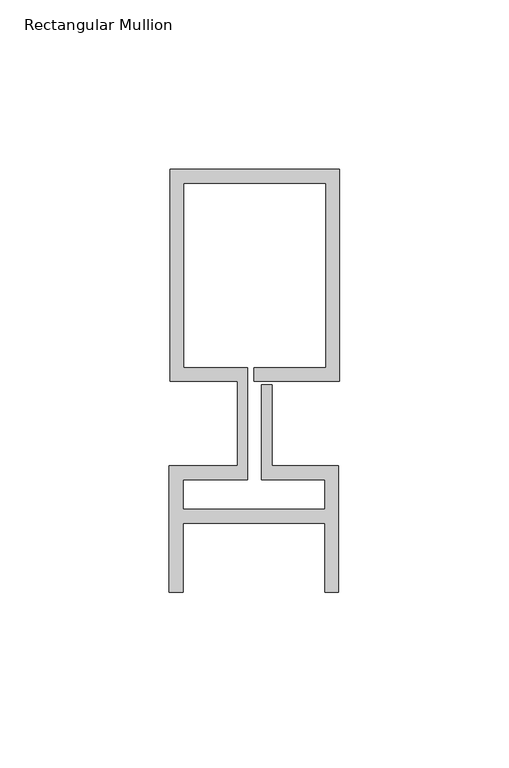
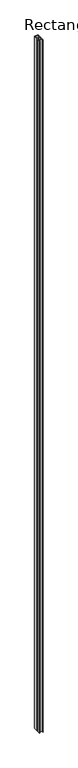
"""IFC4 building model written with IfcOpenShell, lengths in millimetres: member geometry, Rectangular Mullion : Reynaers_CW-50_Mullion-Transom_Vertical_62.5mm_Facecap-03."""

import ifcopenshell
import ifcopenshell.guid

model = None  # the IFC model being written
_history = None  # IfcOwnerHistory: only IFC2X3 demands one
_inside = {}  # id of a spatial element -> (the spatial element, [elements in it])
_under = {}  # id of a project, library or spatial element -> (it, [spatial elements below it])
_declared = {}  # id of a project -> (the project, [libraries it declares])
_typed = {}  # id of a type object -> (the type object, [elements of that type])
_made_of = {}  # id of a material, layer set ... -> (it, [elements and type objects made of it])


def new_model(schema):
    """Start an empty IFC model of exactly this schema.

    Asked for "IFC4X3", IfcOpenShell would pick the latest addendum, in which some entities
    have other attributes; the version numbers below select the first issue.
    IFC2X3 requires an IfcOwnerHistory on every rooted entity: one is made here for all.
    """
    global model, _history
    if schema == "IFC4X3":
        model = ifcopenshell.file(schema_version=(4, 3, 0, 0))
    else:
        model = ifcopenshell.file(schema=schema)
    _inside.clear()
    _under.clear()
    _declared.clear()
    _typed.clear()
    _made_of.clear()
    _history = None
    if model.schema == "IFC2X3":
        org = make("IfcOrganization", Name="unknown")
        user = make(
            "IfcPersonAndOrganization",
            ThePerson=make("IfcPerson", FamilyName="unknown"),
            TheOrganization=org,
        )
        app = make(
            "IfcApplication",
            ApplicationDeveloper=org,
            Version="unknown",
            ApplicationFullName="unknown",
            ApplicationIdentifier="unknown",
        )
        _history = make(
            "IfcOwnerHistory",
            OwningUser=user,
            OwningApplication=app,
            ChangeAction="ADDED",
            CreationDate=0,
        )
    return model


def make(cls, **values):
    """One entity of the class cls with the attributes given. An attribute that is None is left unset."""
    return model.create_entity(
        cls, **{name: value for name, value in values.items() if value is not None}
    )


def rooted(cls, **values):
    """An entity with a GlobalId (a new one), such as an element, a storey or a relation."""
    return make(cls, GlobalId=ifcopenshell.guid.new(), OwnerHistory=_history, **values)


def si_unit(unit_type, name, prefix=None):
    """IfcSIUnit, for example si_unit("LENGTHUNIT", "METRE", prefix="MILLI")."""
    return make("IfcSIUnit", UnitType=unit_type, Prefix=prefix, Name=name)


def assignment(units):
    """IfcUnitAssignment: the units of a project."""
    return None if units is None else make("IfcUnitAssignment", Units=units)


def point(xyz):
    """IfcCartesianPoint."""
    return None if xyz is None else make("IfcCartesianPoint", Coordinates=xyz)


def direction(xyz):
    """IfcDirection."""
    return None if xyz is None else make("IfcDirection", DirectionRatios=xyz)


def frame(location, z_axis=None, x_axis=None):
    """IfcAxis2Placement3D, a coordinate frame: its origin and axes. An axis left out is left unset."""
    return make(
        "IfcAxis2Placement3D",
        Location=point(location),
        Axis=direction(z_axis),
        RefDirection=direction(x_axis),
    )


def origin():
    """The frame at (0, 0, 0) with its axes left unset."""
    return frame((0.0, 0.0, 0.0))


def place(relative_to, where):
    """IfcLocalPlacement: puts the frame where relative to a parent placement (None: the world)."""
    return make(
        "IfcLocalPlacement", PlacementRelTo=relative_to, RelativePlacement=where
    )


def context(
    kind, dimensions, precision=None, world=None, true_north=None, identifier=None
):
    """IfcGeometricRepresentationContext, for example the 3D "Model" context."""
    return make(
        "IfcGeometricRepresentationContext",
        ContextIdentifier=identifier,
        ContextType=kind,
        CoordinateSpaceDimension=dimensions,
        Precision=precision,
        WorldCoordinateSystem=world,
        TrueNorth=true_north,
    )


def project(units=None, contexts=None):
    """IfcProject with its units and contexts."""
    return rooted(
        "IfcProject",
        Name="project",
        RepresentationContexts=contexts,
        UnitsInContext=assignment(units),
    )


def spatial(cls, under=None, at=None, **own):
    """A site, building, storey or space (cls), placed at a placement, below another one or the project."""
    s = rooted(cls, ObjectPlacement=at, **own)
    if under is not None:
        _under.setdefault(under.id(), (under, []))[1].append(s)
    return s


def polyline(points):
    """IfcPolyline through the points."""
    return make("IfcPolyline", Points=[point(p) for p in points])


def outline(outer, holes=None, kind="AREA"):
    """IfcArbitraryClosedProfileDef: a profile drawn as a closed curve; with holes, ...WithVoids."""
    if holes is None:
        return make("IfcArbitraryClosedProfileDef", ProfileType=kind, OuterCurve=outer)
    return make(
        "IfcArbitraryProfileDefWithVoids",
        ProfileType=kind,
        OuterCurve=outer,
        InnerCurves=holes,
    )


def extrude(swept, where, along, depth):
    """IfcExtrudedAreaSolid: the profile swept, set in the frame where, extruded along a direction by depth."""
    return make(
        "IfcExtrudedAreaSolid",
        SweptArea=swept,
        Position=where,
        ExtrudedDirection=direction(along),
        Depth=depth,
    )


def shape(context_of_items, identifier, shape_type, items):
    """IfcShapeRepresentation: the items that make up one representation, for example the "Body"."""
    return make(
        "IfcShapeRepresentation",
        ContextOfItems=context_of_items,
        RepresentationIdentifier=identifier,
        RepresentationType=shape_type,
        Items=items,
    )


def source(mapping_origin, context_of_items, identifier, shape_type, items):
    """IfcRepresentationMap: a shape defined once, which mapped items show again and again."""
    return make(
        "IfcRepresentationMap",
        MappingOrigin=mapping_origin,
        MappedRepresentation=shape(context_of_items, identifier, shape_type, items),
    )


def transform(
    local_origin,
    x_axis=None,
    y_axis=None,
    z_axis=None,
    scale=None,
    scale2=None,
    scale3=None,
    uniform=True,
):
    """IfcCartesianTransformationOperator3D, or its non-uniform kind. x_axis, y_axis, z_axis: its Axis1, 2, 3."""
    if uniform:
        return make(
            "IfcCartesianTransformationOperator3D",
            Axis1=direction(x_axis),
            Axis2=direction(y_axis),
            LocalOrigin=point(local_origin),
            Scale=scale,
            Axis3=direction(z_axis),
        )
    return make(
        "IfcCartesianTransformationOperator3DnonUniform",
        Axis1=direction(x_axis),
        Axis2=direction(y_axis),
        LocalOrigin=point(local_origin),
        Scale=scale,
        Axis3=direction(z_axis),
        Scale2=scale2,
        Scale3=scale3,
    )


def mapped(mapping_source, mapping_target):
    """IfcMappedItem: shows the shape of a source again, moved by a transform."""
    return make(
        "IfcMappedItem", MappingSource=mapping_source, MappingTarget=mapping_target
    )


def made_of(thing, what):
    """Note that an element or type object is made of a material, layer set ...; save() writes the relation."""
    if what is not None:
        _made_of.setdefault(what.id(), (what, []))[1].append(thing)
    return thing


def element(
    cls,
    number,
    at=None,
    inside=None,
    cuts=None,
    type_object=None,
    material=None,
    context=None,
    identifier="Body",
    shape_type=None,
    held_by="IfcProductDefinitionShape",
    body=None,
    shapes=None,
    **own,
):
    """One element of the class cls, such as IfcWall. Its Tag is "e" and its number.

    at: its placement. inside: the storey or other place that contains it. cuts: it is an
    opening in that element (IfcRelVoidsElement). A single representation is given by context,
    identifier, shape_type and body (its items); several are given by shapes. held_by: the class
    of the entity that holds the representations. save() writes the other relations.
    """
    e = rooted(cls, Tag="e%d" % number, ObjectPlacement=at, **own)
    if body is not None:
        shapes = [shape(context, identifier, shape_type, body)]
    if shapes is not None:
        e.Representation = make(held_by, Representations=shapes)
    if inside is not None:
        _inside.setdefault(inside.id(), (inside, []))[1].append(e)
    if cuts is not None:
        rooted(
            "IfcRelVoidsElement", RelatingBuildingElement=cuts, RelatedOpeningElement=e
        )
    if type_object is not None:
        _typed.setdefault(type_object.id(), (type_object, []))[1].append(e)
    return made_of(e, material)


def aggregate(whole, parts):
    """IfcRelAggregates: a whole, such as a stair, and the parts it consists of."""
    return rooted("IfcRelAggregates", RelatingObject=whole, RelatedObjects=parts)


def save(model, path):
    """Write the relations noted so far, then the file.

    IfcRelAggregates (storeys below a building ...), IfcRelContainedInSpatialStructure (elements
    in a storey), IfcRelDefinesByType, IfcRelAssociatesMaterial and IfcRelDeclares: one each for
    every whole, place, type object, material and project.
    """
    for whole, parts in _under.values():
        aggregate(whole, parts)
    for where, things in _inside.values():
        rooted(
            "IfcRelContainedInSpatialStructure",
            RelatedElements=things,
            RelatingStructure=where,
        )
    for kind, things in _typed.values():
        rooted("IfcRelDefinesByType", RelatedObjects=things, RelatingType=kind)
    for what, things in _made_of.values():
        rooted("IfcRelAssociatesMaterial", RelatedObjects=things, RelatingMaterial=what)
    for by, libraries in _declared.values():
        rooted("IfcRelDeclares", RelatingContext=by, RelatedDefinitions=libraries)
    model.write(path)


def rectangular_mullion_f2acd600(model_context):
    return source(origin(), model_context, "Body", "SweptSolid", [
        extrude(outline(polyline([(-24.8004059, 75.0), (25.1995941, 75.0), (25.1995941, 12.5), (0.0, 12.5), (0.0, 16.5), (21.1995941, 16.5), (21.1995941, 71.0), (-20.8004059, 71.0), (-20.8004059, 16.5), (-1.9004059, 16.5), (-1.9004059, -16.5), (-20.994845, -16.5), (-20.994845, -25.3268728), (20.994845, -25.3268728), (20.994845, -16.5), (2.2995941, -16.5), (2.2995941, 11.5), (5.2995941, 11.5), (5.2995941, -12.5), (24.994845, -12.5), (24.994845, -49.8), (20.994845, -49.8), (20.994845, -29.3268728), (-20.994845, -29.3268728), (-20.994845, -49.8), (-24.994845, -49.8), (-24.994845, -12.5), (-4.9004059, -12.5), (-4.9004059, 12.5), (-24.8004059, 12.5), (-24.8004059, 75.0)])), frame((0.0, 0.0, -10400.0), z_axis=(0.0, 0.0, 1.0), x_axis=(1.0, 0.0, 0.0)), (0.0, 0.0, 1.0), 10400.0),
    ])


if __name__ == "__main__":
    model = new_model("IFC4")
    model_context = context("Model", 3, world=origin())
    ifc_project = project(units=[si_unit("LENGTHUNIT", "METRE", prefix="MILLI")], contexts=[model_context])
    site = spatial("IfcSite", under=ifc_project)
    building = spatial("IfcBuilding", under=site)
    placement = place(None, origin())
    rectangular_mullion_shape = rectangular_mullion_f2acd600(model_context)
    element("IfcMember", 1, ObjectType="Rectangular Mullion : Reynaers_CW-50_Mullion-Transom_Vertical_62.5mm_Facecap-03", at=placement, inside=building, context=model_context, shape_type="MappedRepresentation", body=[
        mapped(rectangular_mullion_shape, transform((0.0, 0.0, 0.0), x_axis=(1.0, 0.0, 0.0), y_axis=(0.0, 1.0, 0.0), z_axis=(0.0, 0.0, 1.0))),
    ])
    save(model, "model.ifc")
